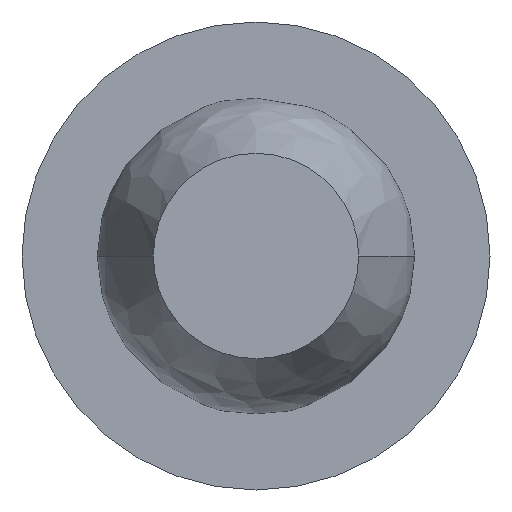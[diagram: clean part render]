
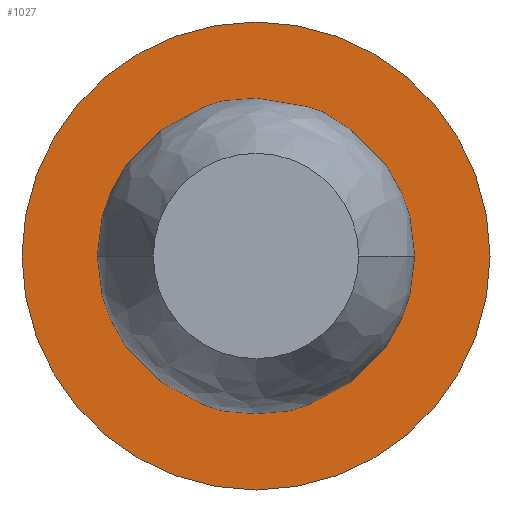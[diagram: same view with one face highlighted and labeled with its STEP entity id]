
A CAD part, front view. The second image highlights one B-rep face of the part: STEP entity #1027.
In plain terms, the highlighted planar face has unit normal (0, -1, 0).
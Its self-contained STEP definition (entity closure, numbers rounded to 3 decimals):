
#19 = CARTESIAN_POINT ( 'NONE',  ( 1212.008, 732.469, 0. ) ) ;
#28 = DIRECTION ( 'NONE',  ( 0., 0., -1. ) ) ;
#37 = AXIS2_PLACEMENT_3D ( 'NONE', #19, #116, #860 ) ;
#80 = AXIS2_PLACEMENT_3D ( 'NONE', #399, #343, #903 ) ;
#90 = EDGE_CURVE ( 'NONE', #242, #521, #780, .T. ) ;
#101 = CARTESIAN_POINT ( 'NONE',  ( 1212.008, 732.469, 0. ) ) ;
#116 = DIRECTION ( 'NONE',  ( 0., -1., 0. ) ) ;
#122 = EDGE_LOOP ( 'NONE', ( #879, #639 ) ) ;
#138 = FACE_BOUND ( 'NONE', #122, .T. ) ;
#143 = ORIENTED_EDGE ( 'NONE', *, *, #361, .T. ) ;
#179 = DIRECTION ( 'NONE',  ( 0., 0., -1. ) ) ;
#188 = DIRECTION ( 'NONE',  ( 0., -1., 0. ) ) ;
#242 = VERTEX_POINT ( 'NONE', #654 ) ;
#343 = DIRECTION ( 'NONE',  ( 0., -1., 0. ) ) ;
#348 = EDGE_CURVE ( 'NONE', #521, #242, #809, .T. ) ;
#354 = VERTEX_POINT ( 'NONE', #1121 ) ;
#361 = EDGE_CURVE ( 'NONE', #543, #354, #1136, .T. ) ;
#372 = DIRECTION ( 'NONE',  ( 0., 0., -1. ) ) ;
#376 = FACE_OUTER_BOUND ( 'NONE', #1141, .T. ) ;
#399 = CARTESIAN_POINT ( 'NONE',  ( 1212.008, 732.469, 0. ) ) ;
#411 = DIRECTION ( 'NONE',  ( 0., -1., 0. ) ) ;
#521 = VERTEX_POINT ( 'NONE', #1014 ) ;
#543 = VERTEX_POINT ( 'NONE', #789 ) ;
#545 = CARTESIAN_POINT ( 'NONE',  ( 1212.008, 732.469, 0. ) ) ;
#578 = PLANE ( 'NONE',  #1045 ) ;
#639 = ORIENTED_EDGE ( 'NONE', *, *, #90, .F. ) ;
#654 = CARTESIAN_POINT ( 'NONE',  ( 1212.008, 732.469, 7.5 ) ) ;
#665 = ORIENTED_EDGE ( 'NONE', *, *, #1009, .T. ) ;
#777 = AXIS2_PLACEMENT_3D ( 'NONE', #545, #1008, #179 ) ;
#780 = CIRCLE ( 'NONE', #777, 7.5 ) ;
#789 = CARTESIAN_POINT ( 'NONE',  ( 1212.008, 732.469, -232.5 ) ) ;
#809 = CIRCLE ( 'NONE', #1153, 7.5 ) ;
#840 = CARTESIAN_POINT ( 'NONE',  ( 1204.508, 732.469, 0. ) ) ;
#860 = DIRECTION ( 'NONE',  ( 0., 0., -1. ) ) ;
#879 = ORIENTED_EDGE ( 'NONE', *, *, #348, .F. ) ;
#903 = DIRECTION ( 'NONE',  ( 0., 0., -1. ) ) ;
#1008 = DIRECTION ( 'NONE',  ( 0., -1., 0. ) ) ;
#1009 = EDGE_CURVE ( 'NONE', #354, #543, #1113, .T. ) ;
#1014 = CARTESIAN_POINT ( 'NONE',  ( 1212.008, 732.469, -7.5 ) ) ;
#1027 = ADVANCED_FACE ( 'NONE', ( #376, #138 ), #578, .T. ) ;
#1045 = AXIS2_PLACEMENT_3D ( 'NONE', #840, #411, #28 ) ;
#1113 = CIRCLE ( 'NONE', #37, 232.5 ) ;
#1121 = CARTESIAN_POINT ( 'NONE',  ( 1212.008, 732.469, 232.5 ) ) ;
#1136 = CIRCLE ( 'NONE', #80, 232.5 ) ;
#1141 = EDGE_LOOP ( 'NONE', ( #143, #665 ) ) ;
#1153 = AXIS2_PLACEMENT_3D ( 'NONE', #101, #188, #372 ) ;
